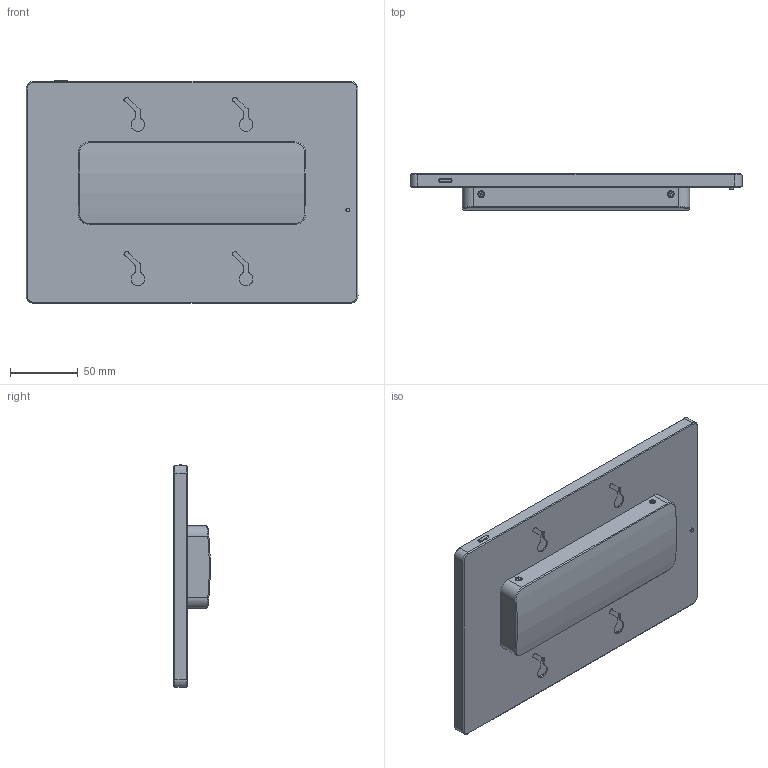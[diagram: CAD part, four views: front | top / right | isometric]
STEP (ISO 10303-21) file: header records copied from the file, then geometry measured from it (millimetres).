
FILE_DESCRIPTION((''),'2;1');
FILE_NAME('000_ZHONGKONGPING_ASM','2025-07-01T11:34:27',('Administrator'),(''),'CREO PARAMETRIC BY PTC INC, 2022073','CREO PARAMETRIC BY PTC INC, 2022073','');
FILE_SCHEMA(('CONFIG_CONTROL_DESIGN','SHAPE_APPEARANCE_LAYERS_GROUPS'));
Length unit declared in the file: millimetre
Products named in the file (21): BOT_1_COVER; BOT_COVER_ASM; PCBA; FH_2P-3_81; FH_3P-3_81; 1_1_08_00127; USB-MINI-3_5-0_2; TP-LCD; 1_1_10_00048; PCB_A_ASM; PCB_ASM; BACK_COVER-1; BACK_COVER_ASM; KEY-PCB; KEY; PCB-ANJIAN; KEY_ASM; ZHIJIA-AL; KM3X4; ANHE-ASM_ASM; 000_ZHONGKONGPING_ASM
Assembly tree (28 placements, depth 4):
  000_ZHONGKONGPING_ASM
    BOT_COVER_ASM
      BOT_1_COVER
    PCB_ASM
      PCB_A_ASM
        PCBA
        FH_2P-3_81
        FH_3P-3_81
        1_1_08_00127
        USB-MINI-3_5-0_2
        TP-LCD
        1_1_10_00048
    BACK_COVER_ASM
      BACK_COVER-1
    KEY_ASM
      KEY-PCB
      KEY
      PCB-ANJIAN
    ZHIJIA-AL  x2
    KM3X4  x8
    ANHE-ASM_ASM
Bounding box: 245.4 x 26.89 x 164.6 mm (x, y, z)
Volume: 340505.2 mm3; surface area: 217466.9 mm2
Topology: 22 solids, 22 shells, 1241 faces, 3257 edges, 2112 vertices
Faces by surface type: plane 816, cylinder 341, cone 56, sphere 16, torus 8, bspline 4
Entity records: 41826 total; most frequent: CARTESIAN_POINT 6276, DIRECTION 5643, ORIENTED_EDGE 5638, EDGE_CURVE 2819, PRESENTATION_STYLE_ASSIGNMENT 2406, STYLED_ITEM 2349, CURVE_STYLE 2276, VECTOR 2099
